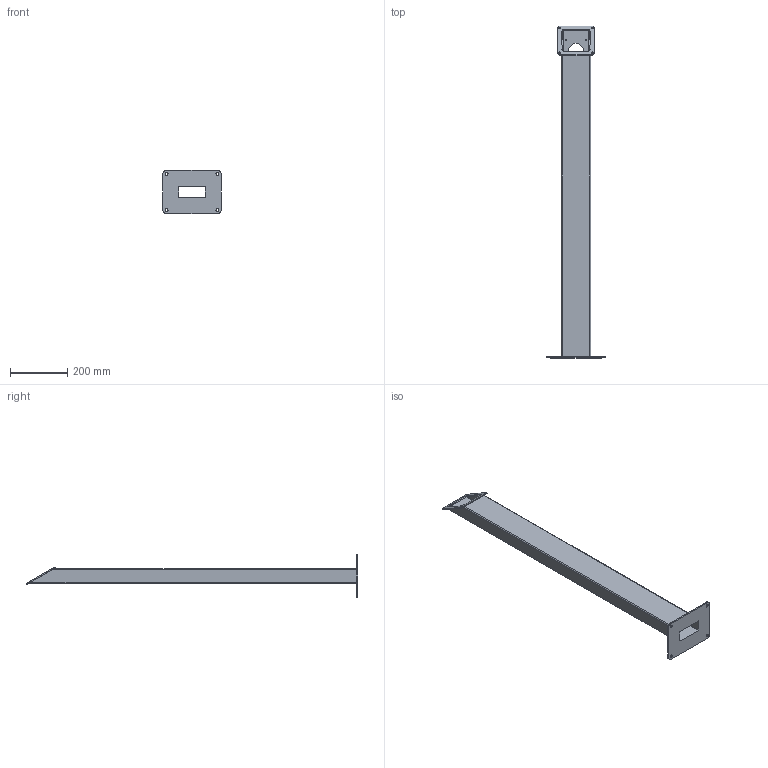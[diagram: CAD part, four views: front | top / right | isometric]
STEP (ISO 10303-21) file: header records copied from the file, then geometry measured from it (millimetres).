
FILE_DESCRIPTION (( 'STEP AP214' ), '1' );
FILE_NAME ('Fixed Pedestal for Yoke Mounts and Enclosures, FPED-xxx-H4R.STEP', '2017-07-19T13:47:19', ( '' ), ( '' ), 'SwSTEP 2.0', 'SolidWorks 2017', '' );
FILE_SCHEMA (( 'AUTOMOTIVE_DESIGN' ));
Length unit declared in the file: inch
Products named in the file (1): Fixed Pedestal for Yoke Mounts and Enclosures, FPED-xxx-H4R
Bounding box: 203.2 x 1158.65 x 152.4 mm (x, y, z)
Volume: 1629736.1 mm3; surface area: 688554.7 mm2
Topology: 1 solids, 1 shells, 79 faces, 222 edges, 148 vertices
Faces by surface type: cylinder 54, plane 25
Entity records: 2708 total; most frequent: CARTESIAN_POINT 474, DIRECTION 474, ORIENTED_EDGE 444, EDGE_CURVE 222, AXIS2_PLACEMENT_3D 180, VERTEX_POINT 148, EDGE_LOOP 118, LINE 114
